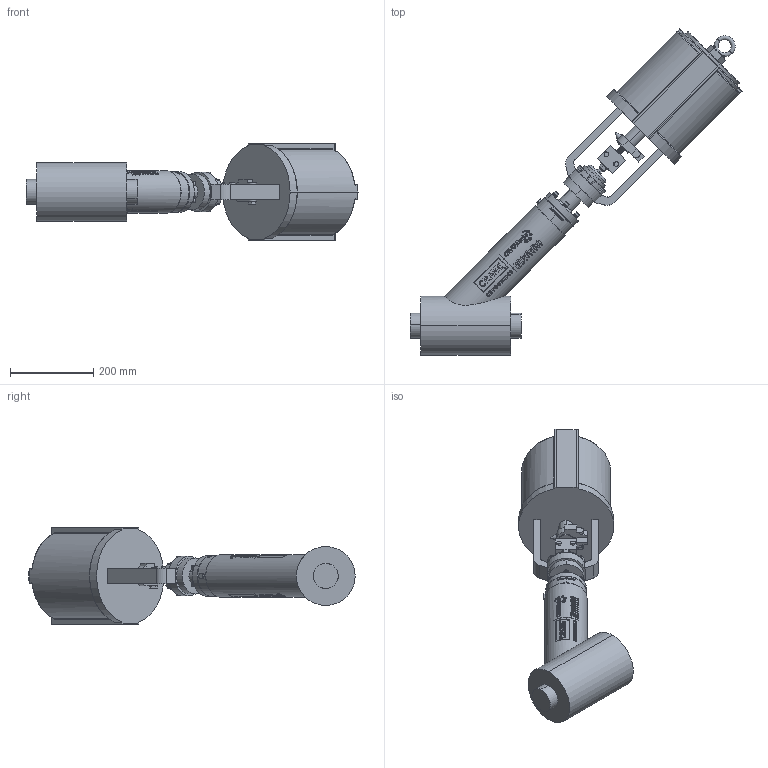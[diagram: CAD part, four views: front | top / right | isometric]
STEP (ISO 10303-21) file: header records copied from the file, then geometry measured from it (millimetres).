
FILE_DESCRIPTION (( 'STEP AP203' ), '1' );
FILE_NAME ('2IN Y-PATTERN PNEUMATIC CRANE BELLOWS SEAL VALVE.step', '2025-12-17T20:07:25', ( '' ), ( '' ), 'SwSTEP 2.0', 'SolidWorks 2023', '' );
FILE_SCHEMA (( 'CONFIG_CONTROL_DESIGN' ));
Length unit declared in the file: inch
Products named in the file (1): 2IN Y-PATTERN PNEUMATIC CRANE BELLOWS SEAL VALVE
Bounding box: 796.96 x 783.36 x 231.65 mm (x, y, z)
Volume: 16019757 mm3; surface area: 644396.9 mm2
Topology: 8 solids, 8 shells, 2223 faces, 5842 edges, 3818 vertices
Faces by surface type: plane 1015, cylinder 619, bspline 367, cone 163, torus 45, sphere 14
Full cylindrical faces by diameter (mm): 1.195 x2, 1.309 x2, 1.422 x2, 1.631 x2, 1.842 x2, 2.373 x2, 2.456 x2, 2.727 x2, 2.906 x2, 3.046 x2, 3.207 x2, 3.658 x2, 4.941 x2, 6.104 x2, 7.386 x2, 8.599 x2, 101.6 x1
Entity records: 151840 total; most frequent: CARTESIAN_POINT 102434, ORIENTED_EDGE 11556, DIRECTION 8388, EDGE_CURVE 5778, VERTEX_POINT 3817, AXIS2_PLACEMENT_3D 2925, LINE 2538, VECTOR 2538
